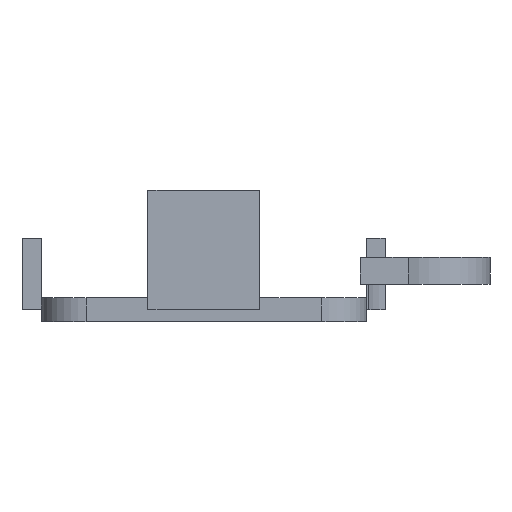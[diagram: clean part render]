
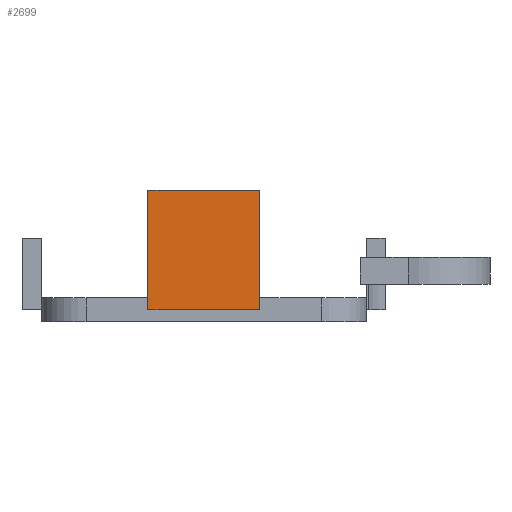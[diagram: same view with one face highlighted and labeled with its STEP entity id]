
A CAD part, left-side view. The second image highlights one B-rep face of the part: STEP entity #2699.
In plain terms, the highlighted planar face has unit normal (-1, 0, 0).
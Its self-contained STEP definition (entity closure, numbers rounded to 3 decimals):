
#196 = PLANE('',#197);
#197 = AXIS2_PLACEMENT_3D('',#198,#199,#200);
#198 = CARTESIAN_POINT('',(-39.8,24.75,5.5));
#199 = DIRECTION('',(0.,1.,0.));
#200 = DIRECTION('',(0.,0.,1.));
#222 = PLANE('',#223);
#223 = AXIS2_PLACEMENT_3D('',#224,#225,#226);
#224 = CARTESIAN_POINT('',(-39.8,17.25,5.5));
#225 = DIRECTION('',(0.,0.,1.));
#226 = DIRECTION('',(1.,0.,0.));
#246 = PLANE('',#247);
#247 = AXIS2_PLACEMENT_3D('',#248,#249,#250);
#248 = CARTESIAN_POINT('',(-39.8,17.25,5.5));
#249 = DIRECTION('',(0.,1.,0.));
#250 = DIRECTION('',(0.,0.,1.));
#845 = VERTEX_POINT('',#846);
#846 = CARTESIAN_POINT('',(-39.8,17.25,5.5));
#867 = EDGE_CURVE('',#845,#868,#870,.T.);
#868 = VERTEX_POINT('',#869);
#869 = CARTESIAN_POINT('',(-39.8,17.25,13.5));
#870 = SURFACE_CURVE('',#871,(#875,#882),.PCURVE_S1.);
#871 = LINE('',#872,#873);
#872 = CARTESIAN_POINT('',(-39.8,17.25,5.5));
#873 = VECTOR('',#874,1.);
#874 = DIRECTION('',(0.,0.,1.));
#875 = PCURVE('',#246,#876);
#876 = DEFINITIONAL_REPRESENTATION('',(#877),#881);
#877 = LINE('',#878,#879);
#878 = CARTESIAN_POINT('',(0.,0.));
#879 = VECTOR('',#880,1.);
#880 = DIRECTION('',(1.,0.));
#881 = ( GEOMETRIC_REPRESENTATION_CONTEXT(2) 
PARAMETRIC_REPRESENTATION_CONTEXT() REPRESENTATION_CONTEXT('2D SPACE',''
  ) );
#882 = PCURVE('',#883,#888);
#883 = PLANE('',#884);
#884 = AXIS2_PLACEMENT_3D('',#885,#886,#887);
#885 = CARTESIAN_POINT('',(-39.8,17.25,5.5));
#886 = DIRECTION('',(1.,0.,0.));
#887 = DIRECTION('',(0.,0.,1.));
#888 = DEFINITIONAL_REPRESENTATION('',(#889),#893);
#889 = LINE('',#890,#891);
#890 = CARTESIAN_POINT('',(0.,0.));
#891 = VECTOR('',#892,1.);
#892 = DIRECTION('',(1.,0.));
#893 = ( GEOMETRIC_REPRESENTATION_CONTEXT(2) 
PARAMETRIC_REPRESENTATION_CONTEXT() REPRESENTATION_CONTEXT('2D SPACE',''
  ) );
#911 = PLANE('',#912);
#912 = AXIS2_PLACEMENT_3D('',#913,#914,#915);
#913 = CARTESIAN_POINT('',(-39.8,17.25,13.5));
#914 = DIRECTION('',(0.,0.,1.));
#915 = DIRECTION('',(1.,0.,0.));
#950 = VERTEX_POINT('',#951);
#951 = CARTESIAN_POINT('',(-39.8,24.75,5.5));
#972 = EDGE_CURVE('',#845,#950,#973,.T.);
#973 = SURFACE_CURVE('',#974,(#978,#985),.PCURVE_S1.);
#974 = LINE('',#975,#976);
#975 = CARTESIAN_POINT('',(-39.8,17.25,5.5));
#976 = VECTOR('',#977,1.);
#977 = DIRECTION('',(0.,1.,0.));
#978 = PCURVE('',#222,#979);
#979 = DEFINITIONAL_REPRESENTATION('',(#980),#984);
#980 = LINE('',#981,#982);
#981 = CARTESIAN_POINT('',(0.,0.));
#982 = VECTOR('',#983,1.);
#983 = DIRECTION('',(0.,1.));
#984 = ( GEOMETRIC_REPRESENTATION_CONTEXT(2) 
PARAMETRIC_REPRESENTATION_CONTEXT() REPRESENTATION_CONTEXT('2D SPACE',''
  ) );
#985 = PCURVE('',#883,#986);
#986 = DEFINITIONAL_REPRESENTATION('',(#987),#991);
#987 = LINE('',#988,#989);
#988 = CARTESIAN_POINT('',(0.,0.));
#989 = VECTOR('',#990,1.);
#990 = DIRECTION('',(0.,-1.));
#991 = ( GEOMETRIC_REPRESENTATION_CONTEXT(2) 
PARAMETRIC_REPRESENTATION_CONTEXT() REPRESENTATION_CONTEXT('2D SPACE',''
  ) );
#999 = EDGE_CURVE('',#950,#1000,#1002,.T.);
#1000 = VERTEX_POINT('',#1001);
#1001 = CARTESIAN_POINT('',(-39.8,24.75,13.5));
#1002 = SURFACE_CURVE('',#1003,(#1007,#1014),.PCURVE_S1.);
#1003 = LINE('',#1004,#1005);
#1004 = CARTESIAN_POINT('',(-39.8,24.75,5.5));
#1005 = VECTOR('',#1006,1.);
#1006 = DIRECTION('',(0.,0.,1.));
#1007 = PCURVE('',#196,#1008);
#1008 = DEFINITIONAL_REPRESENTATION('',(#1009),#1013);
#1009 = LINE('',#1010,#1011);
#1010 = CARTESIAN_POINT('',(0.,0.));
#1011 = VECTOR('',#1012,1.);
#1012 = DIRECTION('',(1.,0.));
#1013 = ( GEOMETRIC_REPRESENTATION_CONTEXT(2) 
PARAMETRIC_REPRESENTATION_CONTEXT() REPRESENTATION_CONTEXT('2D SPACE',''
  ) );
#1014 = PCURVE('',#883,#1015);
#1015 = DEFINITIONAL_REPRESENTATION('',(#1016),#1020);
#1016 = LINE('',#1017,#1018);
#1017 = CARTESIAN_POINT('',(0.,-7.5));
#1018 = VECTOR('',#1019,1.);
#1019 = DIRECTION('',(1.,0.));
#1020 = ( GEOMETRIC_REPRESENTATION_CONTEXT(2) 
PARAMETRIC_REPRESENTATION_CONTEXT() REPRESENTATION_CONTEXT('2D SPACE',''
  ) );
#2676 = EDGE_CURVE('',#868,#1000,#2677,.T.);
#2677 = SURFACE_CURVE('',#2678,(#2682,#2689),.PCURVE_S1.);
#2678 = LINE('',#2679,#2680);
#2679 = CARTESIAN_POINT('',(-39.8,17.25,13.5));
#2680 = VECTOR('',#2681,1.);
#2681 = DIRECTION('',(0.,1.,0.));
#2682 = PCURVE('',#911,#2683);
#2683 = DEFINITIONAL_REPRESENTATION('',(#2684),#2688);
#2684 = LINE('',#2685,#2686);
#2685 = CARTESIAN_POINT('',(0.,0.));
#2686 = VECTOR('',#2687,1.);
#2687 = DIRECTION('',(0.,1.));
#2688 = ( GEOMETRIC_REPRESENTATION_CONTEXT(2) 
PARAMETRIC_REPRESENTATION_CONTEXT() REPRESENTATION_CONTEXT('2D SPACE',''
  ) );
#2689 = PCURVE('',#883,#2690);
#2690 = DEFINITIONAL_REPRESENTATION('',(#2691),#2695);
#2691 = LINE('',#2692,#2693);
#2692 = CARTESIAN_POINT('',(8.,0.));
#2693 = VECTOR('',#2694,1.);
#2694 = DIRECTION('',(0.,-1.));
#2695 = ( GEOMETRIC_REPRESENTATION_CONTEXT(2) 
PARAMETRIC_REPRESENTATION_CONTEXT() REPRESENTATION_CONTEXT('2D SPACE',''
  ) );
#2699 = ADVANCED_FACE('',(#2700),#883,.F.);
#2700 = FACE_BOUND('',#2701,.F.);
#2701 = EDGE_LOOP('',(#2702,#2703,#2704,#2705));
#2702 = ORIENTED_EDGE('',*,*,#867,.F.);
#2703 = ORIENTED_EDGE('',*,*,#972,.T.);
#2704 = ORIENTED_EDGE('',*,*,#999,.T.);
#2705 = ORIENTED_EDGE('',*,*,#2676,.F.);
